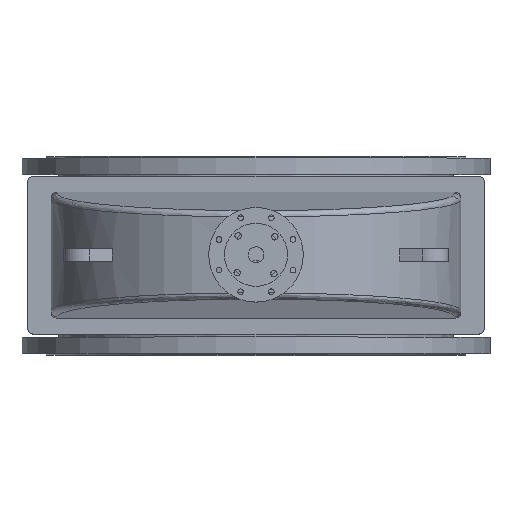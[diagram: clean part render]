
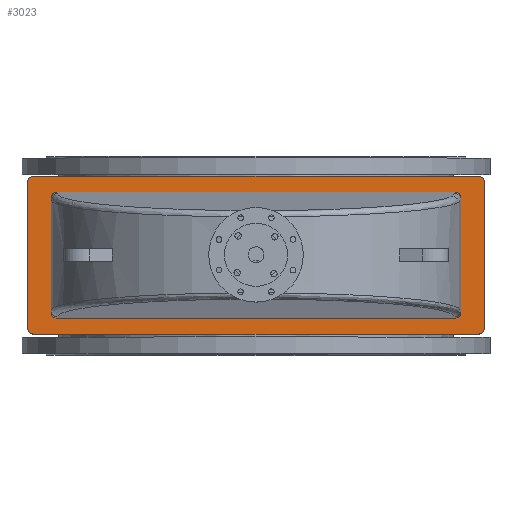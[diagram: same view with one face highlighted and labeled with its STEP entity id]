
A CAD part, top view. The second image highlights one B-rep face of the part: STEP entity #3023.
In plain terms, the highlighted planar face has unit normal (0, 0, 1).
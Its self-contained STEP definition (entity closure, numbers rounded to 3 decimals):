
#3023=ADVANCED_FACE('',(#9469,#9471),#9473,.T.);
#9469=FACE_BOUND('',#9470,.T.);
#9470=EDGE_LOOP('',(#12101,#12102,#12103,#12104,#12105,#12106,#12107,#12108));
#9471=FACE_BOUND('',#9472,.T.);
#9472=EDGE_LOOP('',(#12109,#12110,#12111,#12112,#12113,#12114,#12115,#12116));
#9473=PLANE('',#9474);
#9474=AXIS2_PLACEMENT_3D('',#9475,#9476,#9477);
#9475=CARTESIAN_POINT('',(0.,0.,1366.));
#9476=DIRECTION('',(0.,-0.,1.));
#9477=DIRECTION('',(0.,1.,0.));
#12101=ORIENTED_EDGE('',*,*,#13077,.F.);
#12102=ORIENTED_EDGE('',*,*,#13090,.T.);
#12103=ORIENTED_EDGE('',*,*,#13089,.F.);
#12104=ORIENTED_EDGE('',*,*,#13087,.T.);
#12105=ORIENTED_EDGE('',*,*,#13085,.F.);
#12106=ORIENTED_EDGE('',*,*,#13083,.T.);
#12107=ORIENTED_EDGE('',*,*,#13081,.F.);
#12108=ORIENTED_EDGE('',*,*,#13078,.T.);
#12109=ORIENTED_EDGE('',*,*,#13091,.F.);
#12110=ORIENTED_EDGE('',*,*,#13092,.F.);
#12111=ORIENTED_EDGE('',*,*,#13093,.F.);
#12112=ORIENTED_EDGE('',*,*,#13094,.F.);
#12113=ORIENTED_EDGE('',*,*,#13095,.F.);
#12114=ORIENTED_EDGE('',*,*,#13096,.F.);
#12115=ORIENTED_EDGE('',*,*,#13097,.F.);
#12116=ORIENTED_EDGE('',*,*,#13098,.F.);
#13077=EDGE_CURVE('',#14485,#14483,#14487,.F.);
#13078=EDGE_CURVE('',#14488,#14483,#14489,.T.);
#13081=EDGE_CURVE('',#14488,#14491,#14493,.F.);
#13083=EDGE_CURVE('',#14494,#14491,#14496,.T.);
#13085=EDGE_CURVE('',#14494,#14497,#14499,.F.);
#13087=EDGE_CURVE('',#14500,#14497,#14502,.T.);
#13089=EDGE_CURVE('',#14500,#14503,#14505,.F.);
#13090=EDGE_CURVE('',#14485,#14503,#14506,.T.);
#13091=EDGE_CURVE('',#14507,#14508,#14509,.F.);
#13092=EDGE_CURVE('',#14510,#14507,#14511,.T.);
#13093=EDGE_CURVE('',#14512,#14510,#14513,.T.);
#13094=EDGE_CURVE('',#14514,#14512,#14515,.T.);
#13095=EDGE_CURVE('',#14516,#14514,#14517,.F.);
#13096=EDGE_CURVE('',#14518,#14516,#14519,.T.);
#13097=EDGE_CURVE('',#14520,#14518,#14521,.T.);
#13098=EDGE_CURVE('',#14508,#14520,#14522,.T.);
#14483=VERTEX_POINT('',#18981);
#14485=VERTEX_POINT('',#18985);
#14487=CIRCLE('',#18989,20.);
#14488=VERTEX_POINT('',#18993);
#14489=LINE('',#18994,#18995);
#14491=VERTEX_POINT('',#19000);
#14493=CIRCLE('',#19004,20.);
#14494=VERTEX_POINT('',#19008);
#14496=LINE('',#19012,#19013);
#14497=VERTEX_POINT('',#19015);
#14499=CIRCLE('',#19019,20.);
#14500=VERTEX_POINT('',#19023);
#14502=LINE('',#19027,#19028);
#14503=VERTEX_POINT('',#19030);
#14505=CIRCLE('',#19034,20.);
#14506=LINE('',#19038,#19039);
#14507=VERTEX_POINT('',#19041);
#14508=VERTEX_POINT('',#19042);
#14509=(BOUNDED_CURVE()B_SPLINE_CURVE(3,
(#19043,#19044,#19045,#19046),
.UNSPECIFIED.,.F.,.F.)B_SPLINE_CURVE_WITH_KNOTS((4,4),
(0.,1.),
.UNSPECIFIED.)CURVE()GEOMETRIC_REPRESENTATION_ITEM()RATIONAL_B_SPLINE_CURVE((1.,
0.805,0.805,1.))REPRESENTATION_ITEM(''));
#14510=VERTEX_POINT('',#19047);
#14511=LINE('',#19048,#19049);
#14512=VERTEX_POINT('',#19051);
#14513=(BOUNDED_CURVE()B_SPLINE_CURVE(3,
(#19052,#19053,#19054,#19055),
.UNSPECIFIED.,.F.,.F.)B_SPLINE_CURVE_WITH_KNOTS((4,4),
(0.,1.),
.UNSPECIFIED.)CURVE()GEOMETRIC_REPRESENTATION_ITEM()RATIONAL_B_SPLINE_CURVE((1.,
0.805,0.805,1.))REPRESENTATION_ITEM(''));
#14514=VERTEX_POINT('',#19056);
#14515=LINE('',#19057,#19058);
#14516=VERTEX_POINT('',#19060);
#14517=(BOUNDED_CURVE()B_SPLINE_CURVE(3,
(#19061,#19062,#19063,#19064),
.UNSPECIFIED.,.F.,.F.)B_SPLINE_CURVE_WITH_KNOTS((4,4),
(0.,1.),
.UNSPECIFIED.)CURVE()GEOMETRIC_REPRESENTATION_ITEM()RATIONAL_B_SPLINE_CURVE((1.,
0.805,0.805,1.))REPRESENTATION_ITEM(''));
#14518=VERTEX_POINT('',#19065);
#14519=LINE('',#19066,#19067);
#14520=VERTEX_POINT('',#19069);
#14521=(BOUNDED_CURVE()B_SPLINE_CURVE(3,
(#19070,#19071,#19072,#19073),
.UNSPECIFIED.,.F.,.F.)B_SPLINE_CURVE_WITH_KNOTS((4,4),
(0.,1.),
.UNSPECIFIED.)CURVE()GEOMETRIC_REPRESENTATION_ITEM()RATIONAL_B_SPLINE_CURVE((1.,
0.805,0.805,1.))REPRESENTATION_ITEM(''));
#14522=LINE('',#19074,#19075);
#18981=CARTESIAN_POINT('',(-725.,-230.,1366.));
#18985=CARTESIAN_POINT('',(-705.,-250.,1366.));
#18989=AXIS2_PLACEMENT_3D('',#18990,#18991,#18992);
#18990=CARTESIAN_POINT('',(-705.,-230.,1366.));
#18991=DIRECTION('',(0.,-0.,1.));
#18992=DIRECTION('',(-1.,0.,0.));
#18993=CARTESIAN_POINT('',(-725.,230.,1366.));
#18994=CARTESIAN_POINT('',(-725.,230.,1366.));
#18995=VECTOR('',#18996,1.);
#18996=DIRECTION('',(0.,-1.,0.));
#19000=CARTESIAN_POINT('',(-705.,250.,1366.));
#19004=AXIS2_PLACEMENT_3D('',#19005,#19006,#19007);
#19005=CARTESIAN_POINT('',(-705.,230.,1366.));
#19006=DIRECTION('',(0.,-0.,1.));
#19007=DIRECTION('',(0.,1.,0.));
#19008=CARTESIAN_POINT('',(705.,250.,1366.));
#19012=CARTESIAN_POINT('',(705.,250.,1366.));
#19013=VECTOR('',#19014,1.);
#19014=DIRECTION('',(-1.,0.,0.));
#19015=CARTESIAN_POINT('',(725.,230.,1366.));
#19019=AXIS2_PLACEMENT_3D('',#19020,#19021,#19022);
#19020=CARTESIAN_POINT('',(705.,230.,1366.));
#19021=DIRECTION('',(0.,-0.,1.));
#19022=DIRECTION('',(1.,0.,0.));
#19023=CARTESIAN_POINT('',(725.,-230.,1366.));
#19027=CARTESIAN_POINT('',(725.,-230.,1366.));
#19028=VECTOR('',#19029,1.);
#19029=DIRECTION('',(0.,1.,0.));
#19030=CARTESIAN_POINT('',(705.,-250.,1366.));
#19034=AXIS2_PLACEMENT_3D('',#19035,#19036,#19037);
#19035=CARTESIAN_POINT('',(705.,-230.,1366.));
#19036=DIRECTION('',(0.,-0.,1.));
#19037=DIRECTION('',(0.,-1.,0.));
#19038=CARTESIAN_POINT('',(-705.,-250.,1366.));
#19039=VECTOR('',#19040,1.);
#19040=DIRECTION('',(1.,0.,0.));
#19041=CARTESIAN_POINT('',(630.,-200.,1366.));
#19042=CARTESIAN_POINT('',(650.,-179.924,1366.));
#19043=CARTESIAN_POINT('',(650.,-179.924,1366.));
#19044=CARTESIAN_POINT('',(650.,-191.684,1366.));
#19045=CARTESIAN_POINT('',(641.716,-200.,1366.));
#19046=CARTESIAN_POINT('',(630.,-200.,1366.));
#19047=CARTESIAN_POINT('',(-630.,-200.,1366.));
#19048=CARTESIAN_POINT('',(-630.,-200.,1366.));
#19049=VECTOR('',#19050,1.);
#19050=DIRECTION('',(1.,0.,0.));
#19051=CARTESIAN_POINT('',(-650.,-179.924,1366.));
#19052=CARTESIAN_POINT('',(-650.,-179.924,1366.));
#19053=CARTESIAN_POINT('',(-650.,-191.684,1366.));
#19054=CARTESIAN_POINT('',(-641.716,-200.,1366.));
#19055=CARTESIAN_POINT('',(-630.,-200.,1366.));
#19056=CARTESIAN_POINT('',(-650.,179.924,1366.));
#19057=CARTESIAN_POINT('',(-650.,179.924,1366.));
#19058=VECTOR('',#19059,1.);
#19059=DIRECTION('',(0.,-1.,0.));
#19060=CARTESIAN_POINT('',(-630.,200.,1366.));
#19061=CARTESIAN_POINT('',(-650.,179.924,1366.));
#19062=CARTESIAN_POINT('',(-650.,191.684,1366.));
#19063=CARTESIAN_POINT('',(-641.716,200.,1366.));
#19064=CARTESIAN_POINT('',(-630.,200.,1366.));
#19065=CARTESIAN_POINT('',(630.,200.,1366.));
#19066=CARTESIAN_POINT('',(630.,200.,1366.));
#19067=VECTOR('',#19068,1.);
#19068=DIRECTION('',(-1.,0.,0.));
#19069=CARTESIAN_POINT('',(650.,179.924,1366.));
#19070=CARTESIAN_POINT('',(650.,179.924,1366.));
#19071=CARTESIAN_POINT('',(650.,191.684,1366.));
#19072=CARTESIAN_POINT('',(641.716,200.,1366.));
#19073=CARTESIAN_POINT('',(630.,200.,1366.));
#19074=CARTESIAN_POINT('',(650.,-179.924,1366.));
#19075=VECTOR('',#19076,1.);
#19076=DIRECTION('',(0.,1.,0.));
